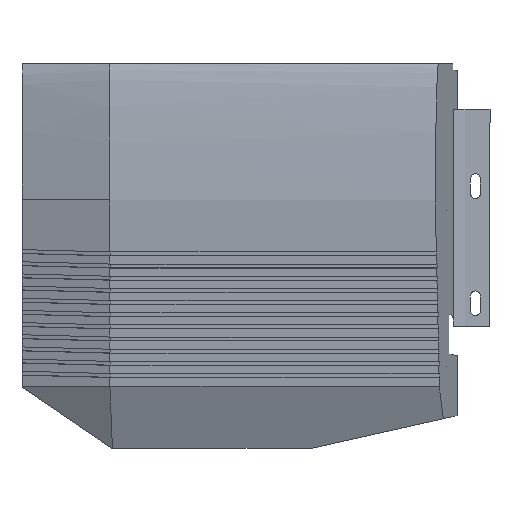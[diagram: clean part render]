
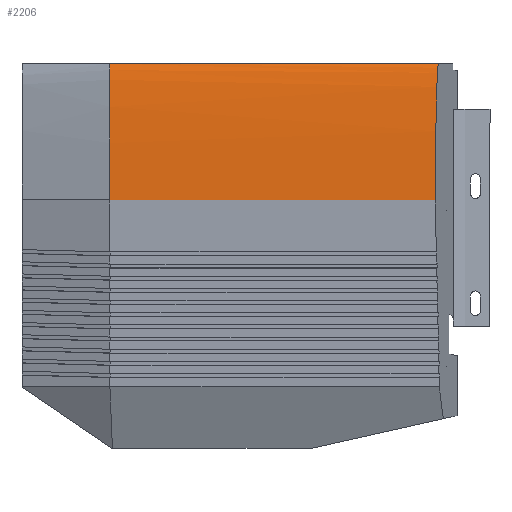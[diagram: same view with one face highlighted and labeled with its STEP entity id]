
A CAD part, left-side view. The second image highlights one B-rep face of the part: STEP entity #2206.
In plain terms, the highlighted free-form (B-spline) face has degree [3, 1] with [7, 2] control points.
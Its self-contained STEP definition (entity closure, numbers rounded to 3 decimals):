
#326 = CARTESIAN_POINT ( 'NONE',  ( -36.77, 1.201, 4.156 ) ) ;
#337 = CARTESIAN_POINT ( 'NONE',  ( -32.078, -0.056, 60. ) ) ;
#339 = CARTESIAN_POINT ( 'NONE',  ( -36.77, 134.461, 4.156 ) ) ;
#340 = CARTESIAN_POINT ( 'NONE',  ( -36.77, 1.201, 4.156 ) ) ;
#401 = VECTOR ( 'NONE', #1361, 1000. ) ;
#422 = VECTOR ( 'NONE', #1405, 1000. ) ;
#456 = VERTEX_POINT ( 'NONE', #326 ) ;
#462 = VERTEX_POINT ( 'NONE', #337 ) ;
#464 = VERTEX_POINT ( 'NONE', #339 ) ;
#465 = VERTEX_POINT ( 'NONE', #340 ) ;
#489 = VERTEX_POINT ( 'NONE', #3293 ) ;
#522 = ORIENTED_EDGE ( 'NONE', *, *, #2242, .T. ) ;
#523 = ORIENTED_EDGE ( 'NONE', *, *, #981, .F. ) ;
#524 = ORIENTED_EDGE ( 'NONE', *, *, #2256, .F. ) ;
#525 = ORIENTED_EDGE ( 'NONE', *, *, #982, .F. ) ;
#526 = ORIENTED_EDGE ( 'NONE', *, *, #983, .F. ) ;
#981 = EDGE_CURVE ( 'NONE', #464, #489, #4110, .T. ) ;
#982 = EDGE_CURVE ( 'NONE', #456, #465, #2886, .T. ) ;
#983 = EDGE_CURVE ( 'NONE', #462, #456, #4109, .T. ) ;
#1359 = LINE ( 'NONE', #1360, #401 ) ;
#1360 = CARTESIAN_POINT ( 'NONE',  ( -32.078, -64.08, 60. ) ) ;
#1361 = DIRECTION ( 'NONE',  ( 0., 1., 0. ) ) ;
#1402 = LINE ( 'NONE', #1404, #422 ) ;
#1404 = CARTESIAN_POINT ( 'NONE',  ( -36.77, -111.406, 4.156 ) ) ;
#1405 = DIRECTION ( 'NONE',  ( 0., 1., 0. ) ) ;
#2063 = CARTESIAN_POINT ( 'NONE',  ( -32.078, 134.461, 60. ) ) ;
#2071 = FACE_OUTER_BOUND ( 'NONE', #3729, .T. ) ;
#2072 = CARTESIAN_POINT ( 'NONE',  ( -32.078, -0.864, 60. ) ) ;
#2074 = CARTESIAN_POINT ( 'NONE',  ( -32.608, -0.864, 58.777 ) ) ;
#2075 = CARTESIAN_POINT ( 'NONE',  ( -32.608, 134.461, 58.777 ) ) ;
#2076 = CARTESIAN_POINT ( 'NONE',  ( -33.585, -0.864, 55.115 ) ) ;
#2077 = CARTESIAN_POINT ( 'NONE',  ( -33.585, 134.461, 55.115 ) ) ;
#2078 = CARTESIAN_POINT ( 'NONE',  ( -34.648, -0.864, 47.841 ) ) ;
#2079 = CARTESIAN_POINT ( 'NONE',  ( -34.648, 134.461, 47.841 ) ) ;
#2080 = CARTESIAN_POINT ( 'NONE',  ( -36.169, -0.864, 30.502 ) ) ;
#2081 = CARTESIAN_POINT ( 'NONE',  ( -36.169, 134.461, 30.502 ) ) ;
#2082 = CARTESIAN_POINT ( 'NONE',  ( -36.501, -0.864, 15.537 ) ) ;
#2083 = CARTESIAN_POINT ( 'NONE',  ( -36.501, 134.461, 15.537 ) ) ;
#2084 = CARTESIAN_POINT ( 'NONE',  ( -36.77, -0.864, 4.156 ) ) ;
#2085 = CARTESIAN_POINT ( 'NONE',  ( -36.77, 134.461, 4.156 ) ) ;
#2121 = B_SPLINE_SURFACE_WITH_KNOTS ( 'NONE', 3, 1, ( 
 ( #2072, #2063 ),
 ( #2074, #2075 ),
 ( #2076, #2077 ),
 ( #2078, #2079 ),
 ( #2080, #2081 ),
 ( #2082, #2083 ),
 ( #2084, #2085 ) ),
 .UNSPECIFIED., .F., .F., .F.,
 ( 4, 1, 1, 1, 4 ),
 ( 2, 2 ),
 ( 0., 0.071, 0.202, 0.392, 1. ),
 ( 0., 1. ),
 .UNSPECIFIED. ) ;
#2206 = ADVANCED_FACE ( 'NONE', ( #2071 ), #2121, .T. ) ;
#2242 = EDGE_CURVE ( 'NONE', #462, #489, #1359, .T. ) ;
#2256 = EDGE_CURVE ( 'NONE', #465, #464, #1402, .T. ) ;
#2835 = CARTESIAN_POINT ( 'NONE',  ( -36.67, 134.461, 8.419 ) ) ;
#2842 = CARTESIAN_POINT ( 'NONE',  ( -36.77, 134.461, 4.156 ) ) ;
#2850 = CARTESIAN_POINT ( 'NONE',  ( -32.549, 0.07, 58.913 ) ) ;
#2851 = CARTESIAN_POINT ( 'NONE',  ( -32.078, -0.056, 60. ) ) ;
#2852 = CARTESIAN_POINT ( 'NONE',  ( -36.571, 134.461, 12.697 ) ) ;
#2853 = CARTESIAN_POINT ( 'NONE',  ( -36.285, 134.461, 22.281 ) ) ;
#2854 = CARTESIAN_POINT ( 'NONE',  ( -36.087, 134.461, 27.587 ) ) ;
#2855 = CARTESIAN_POINT ( 'NONE',  ( -35.621, 134.461, 35.608 ) ) ;
#2856 = CARTESIAN_POINT ( 'NONE',  ( -35.443, 134.461, 38.282 ) ) ;
#2857 = CARTESIAN_POINT ( 'NONE',  ( -35.114, 134.461, 42.349 ) ) ;
#2858 = CARTESIAN_POINT ( 'NONE',  ( -34.992, 134.461, 43.714 ) ) ;
#2859 = CARTESIAN_POINT ( 'NONE',  ( -34.718, 134.461, 46.463 ) ) ;
#2860 = CARTESIAN_POINT ( 'NONE',  ( -34.567, 134.461, 47.842 ) ) ;
#2861 = CARTESIAN_POINT ( 'NONE',  ( -34.305, 134.461, 49.941 ) ) ;
#2862 = CARTESIAN_POINT ( 'NONE',  ( -34.211, 134.461, 50.659 ) ) ;
#2863 = CARTESIAN_POINT ( 'NONE',  ( -33.998, 134.461, 52.132 ) ) ;
#2864 = CARTESIAN_POINT ( 'NONE',  ( -33.88, 134.461, 52.888 ) ) ;
#2865 = CARTESIAN_POINT ( 'NONE',  ( -33.675, 134.461, 54.053 ) ) ;
#2866 = CARTESIAN_POINT ( 'NONE',  ( -33.603, 134.461, 54.446 ) ) ;
#2867 = CARTESIAN_POINT ( 'NONE',  ( -33.446, 134.461, 55.242 ) ) ;
#2868 = CARTESIAN_POINT ( 'NONE',  ( -33.363, 134.461, 55.647 ) ) ;
#2869 = CARTESIAN_POINT ( 'NONE',  ( -33.228, 134.461, 56.255 ) ) ;
#2870 = CARTESIAN_POINT ( 'NONE',  ( -33.181, 134.461, 56.463 ) ) ;
#2871 = CARTESIAN_POINT ( 'NONE',  ( -33.074, 134.461, 56.916 ) ) ;
#2872 = CARTESIAN_POINT ( 'NONE',  ( -33.015, 134.461, 57.157 ) ) ;
#2873 = CARTESIAN_POINT ( 'NONE',  ( -32.874, 134.461, 57.694 ) ) ;
#2874 = CARTESIAN_POINT ( 'NONE',  ( -32.796, 134.461, 57.982 ) ) ;
#2875 = CARTESIAN_POINT ( 'NONE',  ( -32.63, 134.461, 58.516 ) ) ;
#2876 = CARTESIAN_POINT ( 'NONE',  ( -32.57, 134.461, 58.703 ) ) ;
#2877 = CARTESIAN_POINT ( 'NONE',  ( -32.455, 134.461, 59.037 ) ) ;
#2878 = CARTESIAN_POINT ( 'NONE',  ( -32.413, 134.461, 59.155 ) ) ;
#2879 = CARTESIAN_POINT ( 'NONE',  ( -32.315, 134.461, 59.418 ) ) ;
#2880 = CARTESIAN_POINT ( 'NONE',  ( -32.257, 134.461, 59.568 ) ) ;
#2881 = CARTESIAN_POINT ( 'NONE',  ( -32.172, 134.461, 59.776 ) ) ;
#2882 = CARTESIAN_POINT ( 'NONE',  ( -32.151, 134.461, 59.828 ) ) ;
#2883 = CARTESIAN_POINT ( 'NONE',  ( -32.117, 134.461, 59.91 ) ) ;
#2884 = CARTESIAN_POINT ( 'NONE',  ( -32.086, 134.461, 59.98 ) ) ;
#2885 = CARTESIAN_POINT ( 'NONE',  ( -32.078, 134.461, 60. ) ) ;
#2886 = LINE ( 'NONE', #2887, #3151 ) ;
#2887 = CARTESIAN_POINT ( 'NONE',  ( -36.77, 1.201, 86.524 ) ) ;
#2888 = DIRECTION ( 'NONE',  ( 0., 0., -1. ) ) ;
#2891 = CARTESIAN_POINT ( 'NONE',  ( -32.868, 0.155, 57.79 ) ) ;
#2892 = CARTESIAN_POINT ( 'NONE',  ( -33.403, 0.299, 55.521 ) ) ;
#2893 = CARTESIAN_POINT ( 'NONE',  ( -33.625, 0.358, 54.376 ) ) ;
#2894 = CARTESIAN_POINT ( 'NONE',  ( -34.014, 0.462, 52.073 ) ) ;
#2895 = CARTESIAN_POINT ( 'NONE',  ( -34.179, 0.506, 50.915 ) ) ;
#2896 = CARTESIAN_POINT ( 'NONE',  ( -34.477, 0.586, 48.59 ) ) ;
#2897 = CARTESIAN_POINT ( 'NONE',  ( -34.611, 0.622, 47.426 ) ) ;
#2898 = CARTESIAN_POINT ( 'NONE',  ( -34.982, 0.722, 43.933 ) ) ;
#2899 = CARTESIAN_POINT ( 'NONE',  ( -35.183, 0.776, 41.6 ) ) ;
#2900 = CARTESIAN_POINT ( 'NONE',  ( -35.534, 0.87, 36.93 ) ) ;
#2901 = CARTESIAN_POINT ( 'NONE',  ( -35.684, 0.91, 34.593 ) ) ;
#2902 = CARTESIAN_POINT ( 'NONE',  ( -36.076, 1.015, 27.577 ) ) ;
#2903 = CARTESIAN_POINT ( 'NONE',  ( -36.26, 1.064, 22.893 ) ) ;
#2904 = CARTESIAN_POINT ( 'NONE',  ( -36.551, 1.142, 13.526 ) ) ;
#2905 = CARTESIAN_POINT ( 'NONE',  ( -36.659, 1.171, 8.841 ) ) ;
#2906 = CARTESIAN_POINT ( 'NONE',  ( -36.77, 1.201, 4.156 ) ) ;
#3151 = VECTOR ( 'NONE', #2888, 1000. ) ;
#3293 = CARTESIAN_POINT ( 'NONE',  ( -32.078, 134.461, 60. ) ) ;
#3729 = EDGE_LOOP ( 'NONE', ( #522, #523, #524, #525, #526 ) ) ;
#4109 = B_SPLINE_CURVE_WITH_KNOTS ( 'NONE', 3,
 ( #2851, #2850, #2891, #2892, #2893, #2894, #2895, #2896, #2897, #2898, #2899, #2900, #2901, #2902, #2903, #2904, #2905, #2906 ),
 .UNSPECIFIED., .F., .F.,
 ( 4, 2, 2, 2, 2, 2, 2, 2, 4 ),
 ( 0., 0.004, 0.007, 0.011, 0.014, 0.021, 0.028, 0.042, 0.056 ),
 .UNSPECIFIED. ) ;
#4110 = B_SPLINE_CURVE_WITH_KNOTS ( 'NONE', 3,
 ( #2842, #2835, #2852, #2853, #2854, #2855, #2856, #2857, #2858, #2859, #2860, #2861, #2862, #2863, #2864, #2865, #2866, #2867, #2868, #2869, #2870, #2871, #2872, #2873, #2874, #2875, #2876, #2877, #2878, #2879, #2880, #2881, #2882, #2883, #2884, #2885 ),
 .UNSPECIFIED., .F., .F.,
 ( 4, 2, 2, 2, 2, 2, 2, 2, 2, 2, 2, 2, 2, 2, 2, 2, 2, 4 ),
 ( 0., 0.246, 0.547, 0.698, 0.773, 0.848, 0.886, 0.924, 0.942, 0.961, 0.971, 0.98, 0.989, 0.994, 0.997, 0.999, 0.999, 1. ),
 .UNSPECIFIED. ) ;
